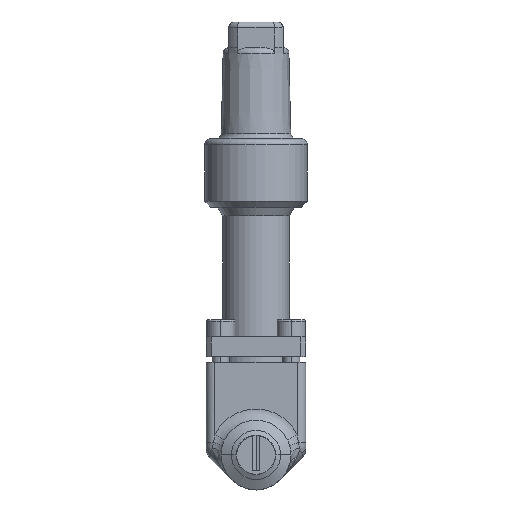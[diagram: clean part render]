
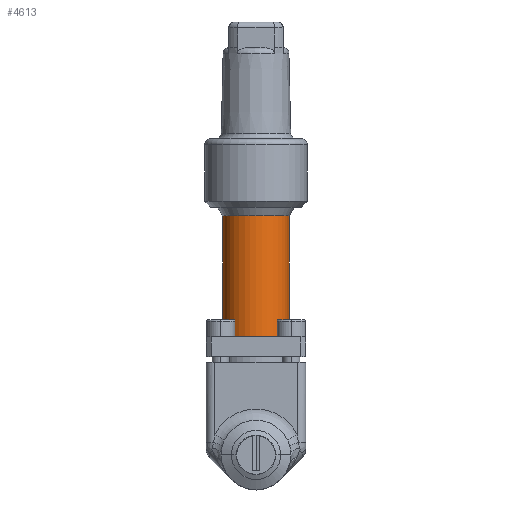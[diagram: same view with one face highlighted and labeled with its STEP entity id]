
A CAD part, top view. The second image highlights one B-rep face of the part: STEP entity #4613.
In plain terms, the highlighted cylindrical face has radius 11.75 mm (diameter 23.5 mm), a partial arc.
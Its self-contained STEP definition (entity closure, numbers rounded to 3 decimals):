
#472 = LINE ( 'NONE', #476, #477 ) ;
#476 = CARTESIAN_POINT ( 'NONE',  ( -11.75, 0., -52.5 ) ) ;
#477 = VECTOR ( 'NONE', #478, 1000. ) ;
#478 = DIRECTION ( 'NONE',  ( 0., 0., 1. ) ) ;
#1409 = VERTEX_POINT ( 'NONE', #18060 ) ;
#18060 = CARTESIAN_POINT ( 'NONE',  ( -11.75, 0., -49.469 ) ) ;
#18143 = CIRCLE ( 'NONE', #18144, 11.75 ) ;
#18144 = AXIS2_PLACEMENT_3D ( 'NONE', #18145, #18146, #18147 ) ;
#18145 = CARTESIAN_POINT ( 'NONE',  ( 0., 0., -7.2 ) ) ;
#18146 = DIRECTION ( 'NONE',  ( 0., 0., -1. ) ) ;
#18147 = DIRECTION ( 'NONE',  ( 1., 0., 0. ) ) ;
#3671 = CIRCLE ( 'NONE', #3672, 11.75 ) ;
#3672 = AXIS2_PLACEMENT_3D ( 'NONE', #3673, #3674, #3675 ) ;
#3673 = CARTESIAN_POINT ( 'NONE',  ( 0., 0., -49.469 ) ) ;
#3674 = DIRECTION ( 'NONE',  ( 0., 0., -1. ) ) ;
#3675 = DIRECTION ( 'NONE',  ( -1., 0., 0. ) ) ;
#4203 = CARTESIAN_POINT ( 'NONE',  ( 11.75, 0., -7.2 ) ) ;
#4383 = EDGE_LOOP ( 'NONE', ( #12920, #12105, #11230, #10354 ) ) ;
#4613 = ADVANCED_FACE ( 'NONE', ( #9815 ), #9835, .T. ) ;
#6477 = VERTEX_POINT ( 'NONE', #12233 ) ;
#8251 = VERTEX_POINT ( 'NONE', #4203 ) ;
#9815 = FACE_OUTER_BOUND ( 'NONE', #4383, .T. ) ;
#9835 = CYLINDRICAL_SURFACE ( 'NONE', #9836, 11.75 ) ;
#9836 = AXIS2_PLACEMENT_3D ( 'NONE', #9837, #9839, #9840 ) ;
#9837 = CARTESIAN_POINT ( 'NONE',  ( 0., 0., -52.5 ) ) ;
#9839 = DIRECTION ( 'NONE',  ( 0., 0., 1. ) ) ;
#9840 = DIRECTION ( 'NONE',  ( 1., 0., 0. ) ) ;
#9984 = EDGE_CURVE ( 'NONE', #6477, #8251, #14782, .T. ) ;
#10354 = ORIENTED_EDGE ( 'NONE', *, *, #9984, .F. ) ;
#10858 = EDGE_CURVE ( 'NONE', #15670, #8251, #18143, .T. ) ;
#11230 = ORIENTED_EDGE ( 'NONE', *, *, #10858, .T. ) ;
#11732 = EDGE_CURVE ( 'NONE', #1409, #15670, #472, .T. ) ;
#12105 = ORIENTED_EDGE ( 'NONE', *, *, #11732, .T. ) ;
#12233 = CARTESIAN_POINT ( 'NONE',  ( 11.75, 0., -49.469 ) ) ;
#12332 = CARTESIAN_POINT ( 'NONE',  ( -11.75, 0., -7.2 ) ) ;
#12623 = EDGE_CURVE ( 'NONE', #1409, #6477, #3671, .T. ) ;
#12920 = ORIENTED_EDGE ( 'NONE', *, *, #12623, .F. ) ;
#14782 = LINE ( 'NONE', #14783, #14784 ) ;
#14783 = CARTESIAN_POINT ( 'NONE',  ( 11.75, 0., -52.5 ) ) ;
#14784 = VECTOR ( 'NONE', #14785, 1000. ) ;
#14785 = DIRECTION ( 'NONE',  ( 0., 0., 1. ) ) ;
#15670 = VERTEX_POINT ( 'NONE', #12332 ) ;
